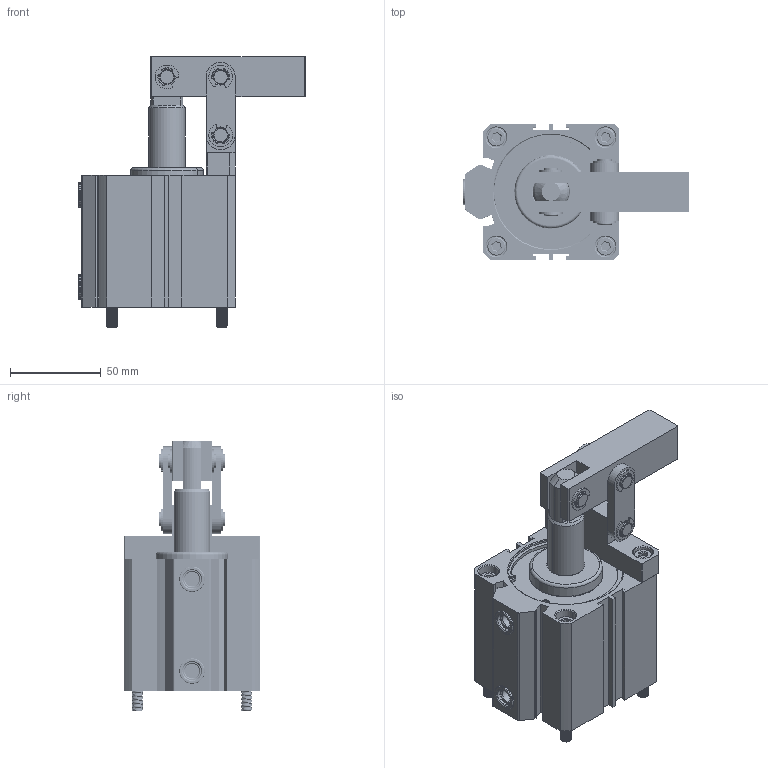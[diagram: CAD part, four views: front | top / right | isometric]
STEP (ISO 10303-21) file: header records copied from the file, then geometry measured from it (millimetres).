
FILE_DESCRIPTION(('FreeCAD Model'),'2;1');
FILE_NAME('Open CASCADE Shape Model','2021-08-17T17:33:00',('Author'),( ''),'Open CASCADE STEP processor 7.4','FreeCAD','Unknown');
FILE_SCHEMA(('AUTOMOTIVE_DESIGN { 1 0 10303 214 1 1 1 1 }'));
Length unit declared in the file: millimetre
Products named in the file (16): PLP-63; DESETEC001; DESETEC002; DESETEC003; DESETEC004; DESETEC006; DESETEC007; DESETEC008; DESETEC010; DESETEC011; DESETEC012; DESETEC014; DESETEC015; DESETEC019; DESETEC021; DESETEC024
Assembly tree (26 placements, depth 2):
  PLP-63
    DESETEC001  x2
    DESETEC002  x6
    DESETEC003
    DESETEC004  x2
    DESETEC006
    DESETEC007  x2
    DESETEC008
    DESETEC010
    DESETEC011
    DESETEC012  x2
    DESETEC014  x2
    DESETEC015
    DESETEC019  x2
    DESETEC021
    DESETEC024
Bounding box: 124.5 x 75 x 148.5 mm (x, y, z)
Volume: 347928.6 mm3; surface area: 133701.5 mm2
Topology: 26 solids, 26 shells, 1300 faces, 3355 edges, 2168 vertices
Faces by surface type: cylinder 778, plane 304, cone 111, torus 84, bspline 23
Entity records: 85175 total; most frequent: CARTESIAN_POINT 44566, DIRECTION 7267, ORIENTED_EDGE 4152, PCURVE 4152, DEFINITIONAL_REPRESENTATION 4152, LINE 4046, VECTOR 4046, EDGE_CURVE 2076
